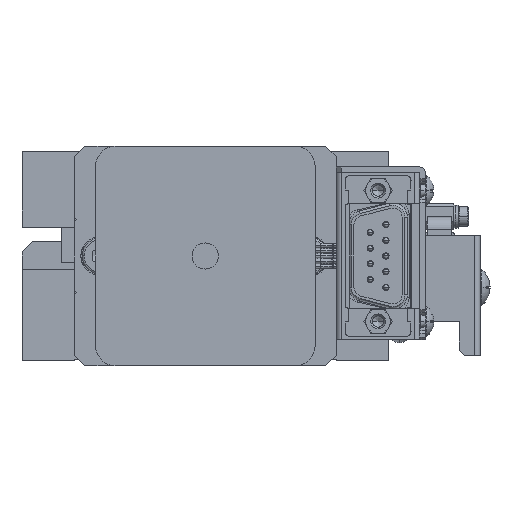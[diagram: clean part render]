
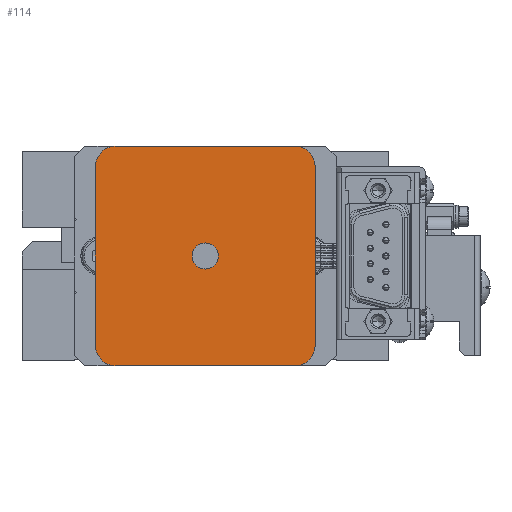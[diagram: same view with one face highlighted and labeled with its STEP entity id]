
A CAD part, left-side view. The second image highlights one B-rep face of the part: STEP entity #114.
In plain terms, the highlighted planar face has unit normal (-1, 0, 0).
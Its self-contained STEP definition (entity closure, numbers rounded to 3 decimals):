
#114=ADVANCED_FACE('',(#2793,#2794),#2792,.T.);
#2792=PLANE('',#29913);
#2793=FACE_OUTER_BOUND('',#29914,.T.);
#2794=FACE_BOUND('',#29915,.T.);
#29910=CARTESIAN_POINT('',(-166.,25.2,-5.2));
#29911=DIRECTION('',(-1.,0.,0.));
#29912=DIRECTION('',(0.,-1.,0.));
#29913=AXIS2_PLACEMENT_3D('',#29910,#29911,#29912);
#29914=EDGE_LOOP('',(#47908,#47909,#47910,#47911,#47912,#47913,#47914,#47915));
#29915=EDGE_LOOP('',(#47916,#47917));
#47908=ORIENTED_EDGE('',*,*,#60416,.F.);
#47909=ORIENTED_EDGE('',*,*,#60417,.T.);
#47910=ORIENTED_EDGE('',*,*,#60418,.F.);
#47911=ORIENTED_EDGE('',*,*,#60419,.T.);
#47912=ORIENTED_EDGE('',*,*,#60420,.F.);
#47913=ORIENTED_EDGE('',*,*,#60421,.T.);
#47914=ORIENTED_EDGE('',*,*,#60422,.F.);
#47915=ORIENTED_EDGE('',*,*,#60423,.T.);
#47916=ORIENTED_EDGE('',*,*,#60424,.F.);
#47917=ORIENTED_EDGE('',*,*,#60425,.F.);
#60416=EDGE_CURVE('',#66670,#66671,#66672,.T.);
#60417=EDGE_CURVE('',#66670,#66678,#66679,.T.);
#60418=EDGE_CURVE('',#66685,#66678,#66686,.T.);
#60419=EDGE_CURVE('',#66685,#66692,#66693,.T.);
#60420=EDGE_CURVE('',#66699,#66692,#66700,.T.);
#60421=EDGE_CURVE('',#66699,#66706,#66707,.T.);
#60422=EDGE_CURVE('',#66713,#66706,#66714,.T.);
#60423=EDGE_CURVE('',#66713,#66671,#66720,.T.);
#60424=EDGE_CURVE('',#66726,#66727,#66728,.T.);
#60425=EDGE_CURVE('',#66727,#66726,#66734,.T.);
#66670=VERTEX_POINT('',#108046);
#66671=VERTEX_POINT('',#108047);
#66672=LINE('',#108048,#108049);
#66678=VERTEX_POINT('',#108051);
#66679=CIRCLE('',#108055,4.);
#66685=VERTEX_POINT('',#108056);
#66686=LINE('',#108057,#108058);
#66692=VERTEX_POINT('',#108060);
#66693=CIRCLE('',#108064,4.);
#66699=VERTEX_POINT('',#108065);
#66700=LINE('',#108066,#108067);
#66706=VERTEX_POINT('',#108069);
#66707=CIRCLE('',#108073,4.);
#66713=VERTEX_POINT('',#108074);
#66714=LINE('',#108075,#108076);
#66720=CIRCLE('',#108081,4.);
#66726=VERTEX_POINT('',#108082);
#66727=VERTEX_POINT('',#108083);
#66728=CIRCLE('',#108087,2.5);
#66734=CIRCLE('',#108091,2.5);
#108046=CARTESIAN_POINT('',(-166.,-17.,-1.));
#108047=CARTESIAN_POINT('',(-166.,17.,-1.));
#108048=CARTESIAN_POINT('',(-166.,-17.,-1.));
#108049=VECTOR('',#108050,34.);
#108050=DIRECTION('',(0.,1.,0.));
#108051=CARTESIAN_POINT('',(-166.,-21.,3.));
#108052=CARTESIAN_POINT('',(-166.,-17.,3.));
#108053=DIRECTION('',(-1.,0.,0.));
#108054=DIRECTION('',(0.,1.,0.));
#108055=AXIS2_PLACEMENT_3D('',#108052,#108053,#108054);
#108056=CARTESIAN_POINT('',(-166.,-21.,37.));
#108057=CARTESIAN_POINT('',(-166.,-21.,37.));
#108058=VECTOR('',#108059,34.);
#108059=DIRECTION('',(0.,0.,-1.));
#108060=CARTESIAN_POINT('',(-166.,-17.,41.));
#108061=CARTESIAN_POINT('',(-166.,-17.,37.));
#108062=DIRECTION('',(-1.,0.,0.));
#108063=DIRECTION('',(0.,1.,0.));
#108064=AXIS2_PLACEMENT_3D('',#108061,#108062,#108063);
#108065=CARTESIAN_POINT('',(-166.,17.,41.));
#108066=CARTESIAN_POINT('',(-166.,17.,41.));
#108067=VECTOR('',#108068,34.);
#108068=DIRECTION('',(0.,-1.,0.));
#108069=CARTESIAN_POINT('',(-166.,21.,37.));
#108070=CARTESIAN_POINT('',(-166.,17.,37.));
#108071=DIRECTION('',(-1.,0.,0.));
#108072=DIRECTION('',(0.,1.,0.));
#108073=AXIS2_PLACEMENT_3D('',#108070,#108071,#108072);
#108074=CARTESIAN_POINT('',(-166.,21.,3.));
#108075=CARTESIAN_POINT('',(-166.,21.,3.));
#108076=VECTOR('',#108077,34.);
#108077=DIRECTION('',(0.,0.,1.));
#108078=CARTESIAN_POINT('',(-166.,17.,3.));
#108079=DIRECTION('',(-1.,0.,0.));
#108080=DIRECTION('',(0.,1.,0.));
#108081=AXIS2_PLACEMENT_3D('',#108078,#108079,#108080);
#108082=CARTESIAN_POINT('',(-166.,2.5,20.));
#108083=CARTESIAN_POINT('',(-166.,-2.5,20.));
#108084=CARTESIAN_POINT('',(-166.,0.,20.));
#108085=DIRECTION('',(-1.,0.,0.));
#108086=DIRECTION('',(0.,-1.,0.));
#108087=AXIS2_PLACEMENT_3D('',#108084,#108085,#108086);
#108088=CARTESIAN_POINT('',(-166.,0.,20.));
#108089=DIRECTION('',(-1.,0.,0.));
#108090=DIRECTION('',(0.,-1.,0.));
#108091=AXIS2_PLACEMENT_3D('',#108088,#108089,#108090);
